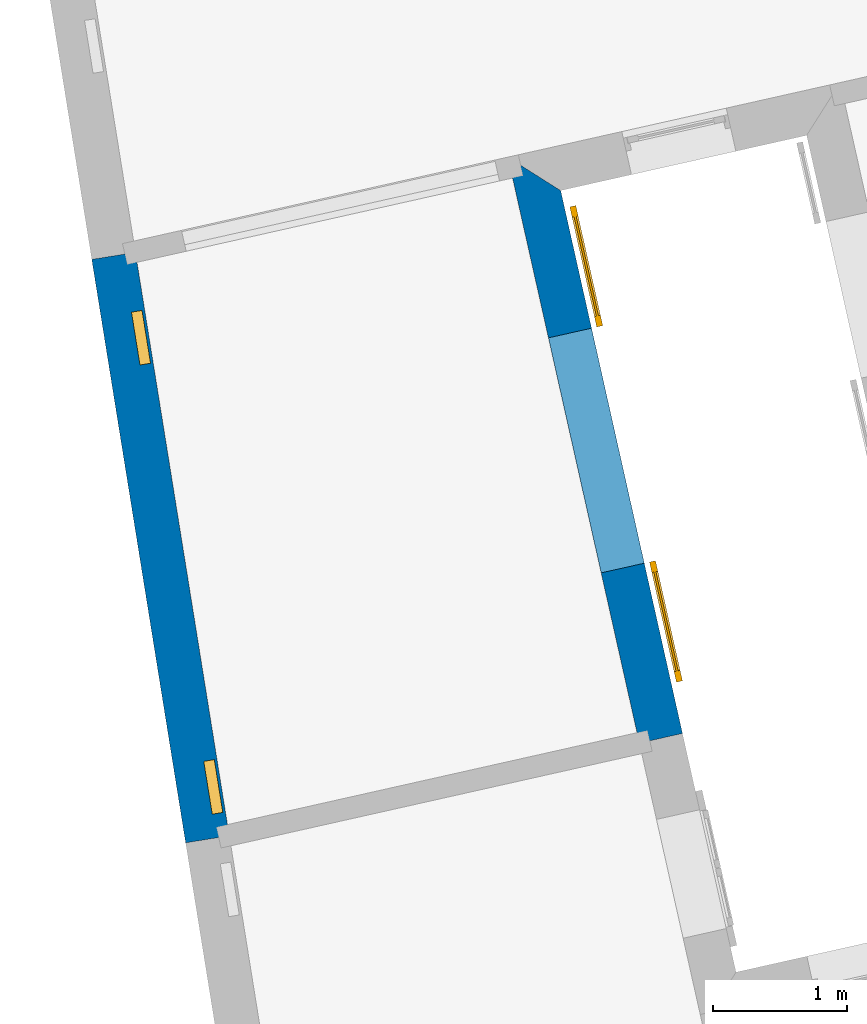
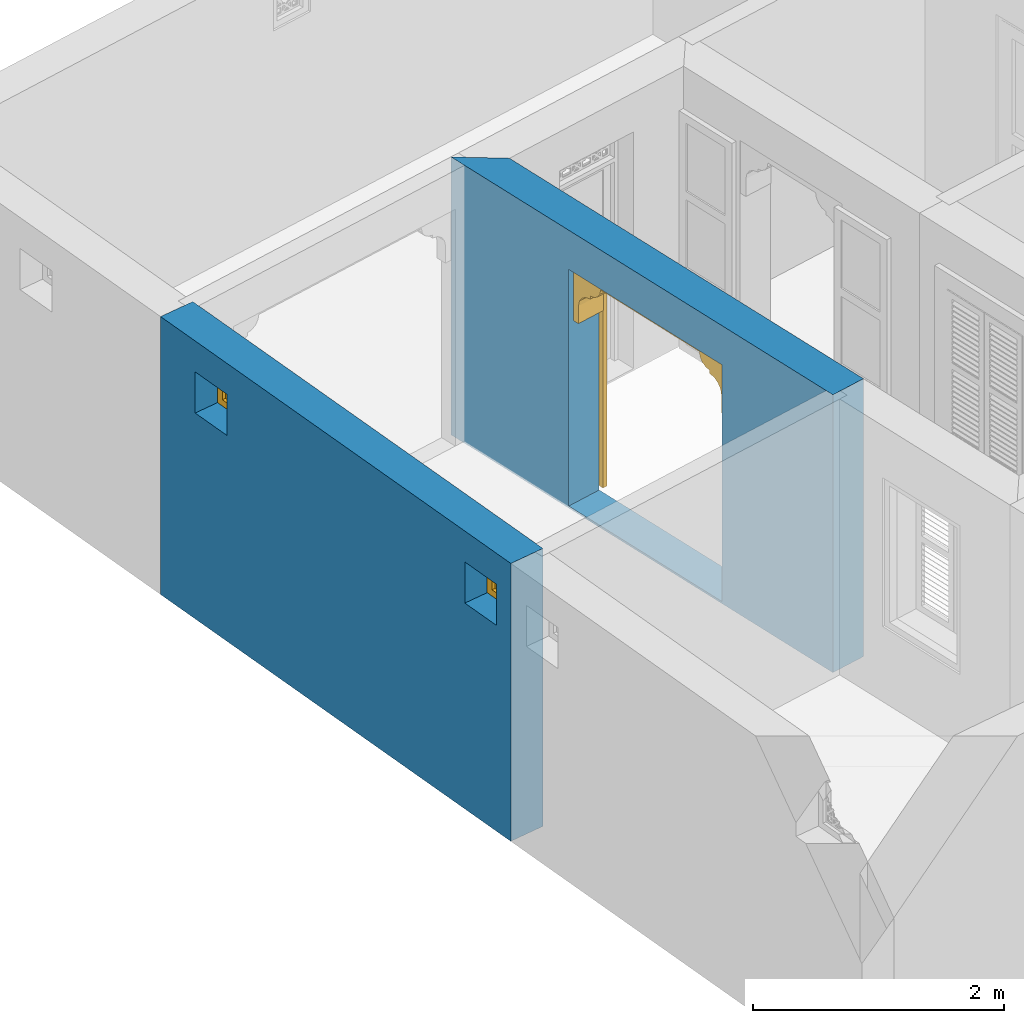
# One storey, part 6 of 13: 2 walls, 2 windows, 1 door, 3 openings.
"""IFC4 building model written with IfcOpenShell, lengths in metres."""

from ifc_helpers import new_model, si_unit, frame, origin, origin_with_axes, place, context, subcontext, project, spatial, polyline, outline, extrude, faceted_brep, source, transform, mapped, material, layer, layer_set, layer_usage, type_object, type_shapes, element, fill, save


model = new_model("IFC4")

# Units and contexts
model_context = context("Model", 3, world=origin_with_axes())
body_context = subcontext(model_context, "Body", "Model", "MODEL_VIEW")
ifc_project = project(units=[si_unit("PLANEANGLEUNIT", "RADIAN"), si_unit("MASSUNIT", "GRAM", prefix="KILO"), si_unit("FORCEUNIT", "NEWTON", prefix="KILO"), si_unit("LENGTHUNIT", "METRE"), si_unit("AREAUNIT", "SQUARE_METRE"), si_unit("VOLUMEUNIT", "CUBIC_METRE")], contexts=[model_context, model_context])

# Site, building, storey
site_placement = place(None, origin_with_axes())
site = spatial("IfcSite", under=ifc_project, at=site_placement, Name="Site plot-10", CompositionType="ELEMENT")
building_placement = place(None, origin_with_axes())
building = spatial("IfcBuilding", under=site, at=building_placement, Name="Building plot-10", CompositionType="ELEMENT")
storey_placement = place(None, origin_with_axes())
storey = spatial("IfcBuildingStorey", under=building, at=storey_placement, Name="plot-10 0", CompositionType="ELEMENT", Elevation=0.0)

# Wall, opening, door
ifc_material = material(Name="Masonry")
ifc_layer = layer(ifc_material, 0.33, ventilated=False)
ifc_layer_set = layer_set([ifc_layer], Name="exterior_0.08_0.25")
ifc_layer_usage = layer_usage(ifc_layer_set, "AXIS2", "POSITIVE", -0.25)
wall_type = type_object("IfcWallType", Name="exterior_0.08_0.25", PredefinedType="SOLIDWALL", material=ifc_layer_set)
wall_1_placement = place(storey_placement, frame((-20.5808779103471, 12.8770561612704, 0.0), z_axis=(0.0, 0.0, 1.0), x_axis=(-0.218925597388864, 0.975741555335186, 0.0)))
wall_1 = element("IfcWall", 1, at=wall_1_placement, inside=storey, type_object=wall_type, material=ifc_layer_usage, Name="exterior", context=body_context, shape_type="SweptSolid", body=[
    extrude(outline(polyline([(-1.06091551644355e-15, 0.0799999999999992), (4.95580054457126e-15, -0.249999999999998), (4.15809049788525, -0.249999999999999), (4.48809049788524, 0.0799999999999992), (-1.06091551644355e-15, 0.0799999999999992)])), origin_with_axes(), (0.0, 0.0, 1.0), 2.7),
])
opening_1_placement = place(wall_1_placement, frame((1.30404524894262, 0.0, 0.02)))
opening_1 = element("IfcOpeningElement", 2, at=opening_1_placement, cuts=wall_1, Name="My Opening", ObjectType="Opening", context=body_context, shape_type="SweptSolid", body=[
    extrude(outline(polyline([(0.0, -0.270000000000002), (1.8, -0.270000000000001), (1.8, 1.1), (1.77635683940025e-15, 1.1), (0.0, -0.270000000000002)])), origin_with_axes(), (0.0, 0.0, 1.0), 2.3),
])
door_type = type_object("IfcDoorType", Name="arch-1800x2300", OperationType="SINGLE_SWING_LEFT", PredefinedType="NOTDEFINED")
shared_shape_1 = source(origin(), body_context, "Body", "Brep", [
    faceted_brep([(-0.08, -0.02, 0.08), (-0.08, -0.02, 0.0), (-0.84, -0.02, 0.0), (-0.84, -0.02, 0.08), (-0.92, -0.02, 0.0), (-0.92, -0.02, 0.08), (-0.84, -0.035, 0.08), (-0.08, -0.035, 0.08), (0.0, -0.02, 0.08), (0.0, -0.02, 0.0), (-0.08, -0.066, 0.0), (-0.84, -0.066, 0.0), (-0.92, -0.066, 0.0), (-0.92, -0.066, 0.08), (-0.84, -0.02, 0.743333), (-0.92, -0.02, 0.743333), (-0.84, -0.035, 0.743333), (-0.08, -0.035, 0.743333), (-0.08, -0.02, 0.743333), (0.0, -0.02, 0.743333), (0.0, -0.066, 0.08), (0.0, -0.066, 0.0), (-0.84, -0.066, 0.08), (-0.08, -0.066, 0.08), (-0.92, -0.066, 0.743333), (-0.84, -0.02, 0.823333), (-0.92, -0.02, 0.823333), (0.0, -0.066, 0.743333), (0.0, -0.02, 0.823333), (-0.08, -0.02, 0.823333), (-0.08, -0.051, 0.08), (-0.84, -0.051, 0.08), (-0.84, -0.066, 0.743333), (-0.92, -0.066, 0.823333), (-0.84, -0.02, 1.486667), (-0.92, -0.02, 1.486667), (0.0, -0.066, 0.823333), (-0.08, -0.066, 0.743333), (0.0, -0.02, 1.486667), (-0.08, -0.02, 1.486667), (-0.08, -0.051, 0.743333), (-0.84, -0.051, 0.743333), (-0.84, -0.066, 0.823333), (-0.92, -0.066, 1.486667), (-0.84, -0.035, 0.823333), (-0.08, -0.035, 0.823333), (-0.84, -0.035, 1.486667), (-0.84, -0.02, 1.566667), (-0.92, -0.02, 1.566667), (0.0, -0.066, 1.486667), (-0.08, -0.066, 0.823333), (-0.08, -0.035, 1.486667), (0.0, -0.02, 1.566667), (-0.08, -0.02, 1.566667), (-0.84, -0.066, 1.486667), (-0.92, -0.066, 1.566667), (-0.84, -0.02, 2.23), (-0.92, -0.02, 2.23), (0.0, -0.066, 1.566667), (-0.08, -0.066, 1.486667), (0.0, -0.02, 2.23), (-0.08, -0.02, 2.23), (-0.08, -0.051, 0.823333), (-0.84, -0.051, 0.823333), (-0.84, -0.051, 1.486667), (-0.84, -0.066, 1.566667), (-0.92, -0.066, 2.23), (-0.84, -0.035, 1.566667), (-0.08, -0.035, 1.566667), (-0.84, -0.035, 2.23), (-0.84, -0.02, 2.31), (-0.92, -0.02, 2.31), (0.0, -0.066, 2.23), (-0.08, -0.066, 1.566667), (-0.08, -0.051, 1.486667), (-0.08, -0.035, 2.23), (0.0, -0.02, 2.31), (-0.08, -0.02, 2.31), (-0.84, -0.066, 2.23), (-0.92, -0.066, 2.31), (-0.84, -0.066, 2.31), (0.0, -0.066, 2.31), (-0.08, -0.066, 2.23), (-0.08, -0.066, 2.31), (-0.08, -0.051, 1.566667), (-0.84, -0.051, 1.566667), (-0.84, -0.051, 2.23), (-0.08, -0.051, 2.23), (2.64, -0.02, 0.08), (2.64, -0.02, 0.0), (1.88, -0.02, 0.0), (1.88, -0.02, 0.08), (2.72, -0.02, 0.08), (2.72, -0.02, 0.0), (1.88, -0.035, 0.08), (2.64, -0.035, 0.08), (1.8, -0.02, 0.0), (1.8, -0.02, 0.08), (2.64, -0.066, 0.0), (1.88, -0.066, 0.0), (2.72, -0.066, 0.08), (2.72, -0.066, 0.0), (2.72, -0.02, 0.743333), (2.64, -0.02, 0.743333), (2.64, -0.035, 0.743333), (1.88, -0.035, 0.743333), (1.88, -0.02, 0.743333), (1.8, -0.02, 0.743333), (1.8, -0.066, 0.0), (1.8, -0.066, 0.08), (1.88, -0.066, 0.08), (2.64, -0.066, 0.08), (2.72, -0.066, 0.743333), (2.72, -0.02, 0.823333), (2.64, -0.02, 0.823333), (1.8, -0.066, 0.743333), (1.88, -0.02, 0.823333), (1.8, -0.02, 0.823333), (2.64, -0.051, 0.08), (1.88, -0.051, 0.08), (2.64, -0.066, 0.743333), (2.72, -0.066, 0.823333), (2.72, -0.02, 1.486667), (2.64, -0.02, 1.486667), (1.8, -0.066, 0.823333), (1.88, -0.066, 0.743333), (1.88, -0.02, 1.486667), (1.8, -0.02, 1.486667), (1.88, -0.051, 0.743333), (2.64, -0.051, 0.743333), (2.64, -0.066, 0.823333), (2.72, -0.066, 1.486667), (1.88, -0.035, 0.823333), (2.64, -0.035, 0.823333), (2.64, -0.035, 1.486667), (2.72, -0.02, 1.566667), (2.64, -0.02, 1.566667), (1.8, -0.066, 1.486667), (1.88, -0.066, 0.823333), (1.88, -0.035, 1.486667), (1.88, -0.02, 1.566667), (1.8, -0.02, 1.566667), (2.64, -0.066, 1.486667), (2.72, -0.066, 1.566667), (2.72, -0.02, 2.23), (2.64, -0.02, 2.23), (1.8, -0.066, 1.566667), (1.88, -0.066, 1.486667), (1.88, -0.02, 2.23), (1.8, -0.02, 2.23), (2.64, -0.051, 0.823333), (1.88, -0.051, 0.823333), (2.64, -0.051, 1.486667), (2.64, -0.066, 1.566667), (2.72, -0.066, 2.23), (1.88, -0.035, 1.566667), (2.64, -0.035, 1.566667), (2.64, -0.035, 2.23), (2.72, -0.02, 2.31), (2.64, -0.02, 2.31), (1.8, -0.066, 2.23), (1.88, -0.066, 1.566667), (1.88, -0.051, 1.486667), (1.88, -0.035, 2.23), (1.88, -0.02, 2.31), (1.8, -0.02, 2.31), (2.64, -0.066, 2.23), (2.72, -0.066, 2.31), (2.64, -0.066, 2.31), (1.8, -0.066, 2.31), (1.88, -0.066, 2.23), (1.88, -0.066, 2.31), (2.64, -0.051, 1.566667), (1.88, -0.051, 1.566667), (2.64, -0.051, 2.23), (1.88, -0.051, 2.23), (1.8, 0.03, 1.78), (1.8, 0.03, 1.95), (1.74, 0.03, 1.95), (1.74, 0.03, 1.78), (1.74, 0.3, 1.95), (1.74, 0.3, 1.78), (1.8, 0.03, 2.12), (1.729, 0.03, 2.004), (1.8, 0.3, 1.78), (1.8, 0.3, 1.95), (1.729, 0.3, 2.004), (1.699, 0.03, 2.049), (1.8, 0.3, 2.12), (1.699, 0.3, 2.049), (1.654, 0.03, 2.079), (1.8, 0.3, 2.29), (1.8, 0.03, 2.29), (1.654, 0.3, 2.079), (1.6, 0.03, 2.09), (1.6, 0.03, 2.12), (1.554, 0.03, 2.129), (1.48, 0.3, 2.29), (1.48, 0.03, 2.29), (1.6, 0.3, 2.12), (1.554, 0.3, 2.129), (1.6, 0.3, 2.09), (1.515, 0.03, 2.155), (1.489, 0.3, 2.194), (1.48, 0.3, 2.24), (1.48, 0.03, 2.24), (1.489, 0.03, 2.194), (1.515, 0.3, 2.155), (0.06, 0.03, 1.78), (0.06, 0.03, 1.95), (0.0, 0.03, 1.95), (0.0, 0.03, 1.78), (0.06, 0.3, 1.78), (0.06, 0.3, 1.95), (0.071, 0.03, 2.004), (0.0, 0.03, 2.12), (0.0, 0.3, 1.95), (0.0, 0.3, 1.78), (0.071, 0.3, 2.004), (0.101, 0.03, 2.049), (0.0, 0.3, 2.12), (0.101, 0.3, 2.049), (0.146, 0.03, 2.079), (0.0, 0.03, 2.29), (0.0, 0.3, 2.29), (0.146, 0.3, 2.079), (0.2, 0.03, 2.12), (0.2, 0.03, 2.09), (0.246, 0.03, 2.129), (0.32, 0.03, 2.29), (0.32, 0.3, 2.29), (0.246, 0.3, 2.129), (0.2, 0.3, 2.12), (0.2, 0.3, 2.09), (0.285, 0.03, 2.155), (0.32, 0.3, 2.24), (0.311, 0.3, 2.194), (0.311, 0.03, 2.194), (0.32, 0.03, 2.24), (0.285, 0.3, 2.155)], [[[0, 1, 2, 3]], [[4, 5, 3, 2]], [[0, 3, 6, 7]], [[1, 0, 8, 9]], [[2, 1, 10, 11]], [[5, 4, 12, 13]], [[14, 3, 5, 15]], [[4, 2, 11, 12]], [[3, 14, 16, 6]], [[6, 16, 17, 7]], [[18, 0, 7, 17]], [[0, 18, 19, 8]], [[9, 8, 20, 21]], [[1, 9, 21, 10]], [[22, 11, 10, 23]], [[13, 12, 11, 22]], [[15, 5, 13, 24]], [[25, 14, 15, 26]], [[14, 18, 17, 16]], [[8, 19, 27, 20]], [[28, 19, 18, 29]], [[23, 10, 21, 20]], [[22, 23, 30, 31]], [[22, 32, 24, 13]], [[26, 15, 24, 33]], [[29, 18, 14, 25]], [[34, 25, 26, 35]], [[19, 28, 36, 27]], [[20, 27, 37, 23]], [[38, 28, 29, 39]], [[23, 37, 40, 30]], [[41, 31, 30, 40]], [[32, 22, 31, 41]], [[32, 42, 33, 24]], [[35, 26, 33, 43]], [[29, 25, 44, 45]], [[25, 34, 46, 44]], [[47, 34, 35, 48]], [[28, 38, 49, 36]], [[27, 36, 50, 37]], [[39, 29, 45, 51]], [[52, 38, 39, 53]], [[37, 32, 41, 40]], [[37, 50, 42, 32]], [[42, 54, 43, 33]], [[48, 35, 43, 55]], [[44, 46, 51, 45]], [[34, 39, 51, 46]], [[34, 47, 53, 39]], [[56, 47, 48, 57]], [[38, 52, 58, 49]], [[36, 49, 59, 50]], [[60, 52, 53, 61]], [[42, 50, 62, 63]], [[54, 42, 63, 64]], [[54, 65, 55, 43]], [[57, 48, 55, 66]], [[53, 47, 67, 68]], [[47, 56, 69, 67]], [[70, 56, 57, 71]], [[52, 60, 72, 58]], [[49, 58, 73, 59]], [[50, 59, 74, 62]], [[61, 53, 68, 75]], [[76, 60, 61, 77]], [[64, 63, 62, 74]], [[59, 54, 64, 74]], [[65, 54, 59, 73]], [[65, 78, 66, 55]], [[71, 57, 66, 79]], [[67, 69, 75, 68]], [[56, 61, 75, 69]], [[77, 61, 56, 70]], [[70, 71, 79, 80]], [[60, 76, 81, 72]], [[58, 72, 82, 73]], [[76, 77, 83, 81]], [[65, 73, 84, 85]], [[78, 65, 85, 86]], [[78, 80, 79, 66]], [[77, 70, 80, 83]], [[72, 81, 83, 82]], [[73, 82, 87, 84]], [[86, 85, 84, 87]], [[82, 78, 86, 87]], [[82, 83, 80, 78]], [[88, 89, 90, 91]], [[89, 88, 92, 93]], [[94, 95, 88, 91]], [[96, 97, 91, 90]], [[98, 99, 90, 89]], [[100, 101, 93, 92]], [[102, 92, 88, 103]], [[101, 98, 89, 93]], [[95, 104, 103, 88]], [[94, 105, 104, 95]], [[105, 94, 91, 106]], [[97, 107, 106, 91]], [[108, 109, 97, 96]], [[99, 108, 96, 90]], [[110, 99, 98, 111]], [[111, 98, 101, 100]], [[112, 100, 92, 102]], [[113, 102, 103, 114]], [[104, 105, 106, 103]], [[109, 115, 107, 97]], [[116, 106, 107, 117]], [[109, 108, 99, 110]], [[118, 119, 110, 111]], [[100, 112, 120, 111]], [[121, 112, 102, 113]], [[114, 103, 106, 116]], [[122, 113, 114, 123]], [[115, 124, 117, 107]], [[110, 125, 115, 109]], [[126, 116, 117, 127]], [[119, 128, 125, 110]], [[128, 119, 118, 129]], [[129, 118, 111, 120]], [[112, 121, 130, 120]], [[131, 121, 113, 122]], [[132, 133, 114, 116]], [[133, 134, 123, 114]], [[135, 122, 123, 136]], [[124, 137, 127, 117]], [[125, 138, 124, 115]], [[139, 132, 116, 126]], [[140, 126, 127, 141]], [[128, 129, 120, 125]], [[120, 130, 138, 125]], [[121, 131, 142, 130]], [[143, 131, 122, 135]], [[132, 139, 134, 133]], [[134, 139, 126, 123]], [[126, 140, 136, 123]], [[144, 135, 136, 145]], [[137, 146, 141, 127]], [[138, 147, 137, 124]], [[148, 140, 141, 149]], [[150, 151, 138, 130]], [[152, 150, 130, 142]], [[131, 143, 153, 142]], [[154, 143, 135, 144]], [[155, 156, 136, 140]], [[156, 157, 145, 136]], [[158, 144, 145, 159]], [[146, 160, 149, 141]], [[147, 161, 146, 137]], [[151, 162, 147, 138]], [[163, 155, 140, 148]], [[164, 148, 149, 165]], [[162, 151, 150, 152]], [[162, 152, 142, 147]], [[161, 147, 142, 153]], [[143, 154, 166, 153]], [[167, 154, 144, 158]], [[155, 163, 157, 156]], [[157, 163, 148, 145]], [[159, 145, 148, 164]], [[168, 167, 158, 159]], [[160, 169, 165, 149]], [[161, 170, 160, 146]], [[169, 171, 164, 165]], [[172, 173, 161, 153]], [[174, 172, 153, 166]], [[154, 167, 168, 166]], [[171, 168, 159, 164]], [[170, 171, 169, 160]], [[173, 175, 170, 161]], [[175, 173, 172, 174]], [[175, 174, 166, 170]], [[166, 168, 171, 170]], [[176, 177, 178, 179]], [[180, 181, 179, 178]], [[177, 182, 183, 178]], [[177, 176, 184, 185]], [[181, 184, 176, 179]], [[181, 180, 185, 184]], [[186, 180, 178, 183]], [[182, 187, 183]], [[182, 177, 185, 188]], [[180, 186, 188, 185]], [[189, 186, 183, 187]], [[182, 190, 187]], [[188, 191, 192, 182]], [[188, 186, 189]], [[193, 189, 187, 190]], [[194, 190, 182, 195]], [[182, 192, 196, 195]], [[192, 191, 197, 198]], [[199, 200, 191, 188]], [[188, 189, 193]], [[201, 193, 190, 194]], [[199, 201, 194, 195]], [[200, 199, 195, 196]], [[192, 202, 196]], [[191, 203, 204, 197]], [[192, 198, 205, 206]], [[207, 191, 200]], [[199, 188, 193, 201]], [[207, 200, 196, 202]], [[192, 206, 202]], [[204, 203, 206, 205]], [[203, 191, 207]], [[203, 207, 202, 206]], [[208, 209, 210, 211]], [[209, 208, 212, 213]], [[209, 214, 215, 210]], [[211, 210, 216, 217]], [[208, 211, 217, 212]], [[217, 216, 213, 212]], [[214, 209, 213, 218]], [[214, 219, 215]], [[220, 216, 210, 215]], [[216, 220, 218, 213]], [[219, 214, 218, 221]], [[219, 222, 215]], [[215, 223, 224, 220]], [[221, 218, 220]], [[222, 219, 221, 225]], [[226, 215, 222, 227]], [[226, 228, 223, 215]], [[229, 230, 224, 223]], [[220, 224, 231, 232]], [[225, 221, 220]], [[227, 222, 225, 233]], [[226, 227, 233, 232]], [[228, 226, 232, 231]], [[228, 234, 223]], [[230, 235, 236, 224]], [[237, 238, 229, 223]], [[231, 224, 239]], [[233, 225, 220, 232]], [[234, 228, 231, 239]], [[234, 237, 223]], [[238, 237, 236, 235]], [[239, 224, 236]], [[237, 234, 239, 236]], [[238, 235, 204, 205]], [[235, 230, 197, 204]], [[229, 238, 205, 198]], [[230, 229, 198, 197]]]),
])
type_shapes(door_type, [shared_shape_1])
door_placement = place(storey_placement, frame((-20.6029165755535, 14.2085772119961, 0.02), z_axis=(0.0, 0.0, 1.0), x_axis=(-0.394066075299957, 1.75633479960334, 0.0)))
door = element("IfcDoor", 3, at=door_placement, inside=storey, type_object=door_type, Name="kitchen sahn door", OverallHeight=2.3, OverallWidth=1.8, context=body_context, shape_type="MappedRepresentation", body=[
    mapped(shared_shape_1, transform((0.0, 0.0, 0.0), scale=1.0)),
])
fill(opening_1, door)

# Wall, openings, windows
wall_2_placement = place(storey_placement, frame((-24.5040673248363, 16.5144987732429, 0.0), z_axis=(0.0, 0.0, 1.0), x_axis=(0.158841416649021, -0.98730410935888, 0.0)))
wall_2 = element("IfcWall", 4, at=wall_2_placement, inside=storey, type_object=wall_type, material=ifc_layer_usage, Name="exterior", context=body_context, shape_type="SweptSolid", body=[
    extrude(outline(polyline([(-1.22078763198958e-15, 0.08), (4.83905705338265e-15, -0.249999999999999), (4.41635748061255, -0.249999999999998), (4.41635748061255, 0.0800000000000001), (-1.22078763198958e-15, 0.08)])), origin_with_axes(), (0.0, 0.0, 1.0), 2.7),
])
opening_2_placement = place(wall_2_placement, frame((0.436357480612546, 0.0, 2.0)))
opening_2 = element("IfcOpeningElement", 5, at=opening_2_placement, cuts=wall_2, Name="My Opening", ObjectType="Opening", context=body_context, shape_type="SweptSolid", body=[
    extrude(outline(polyline([(0.0, -0.27), (0.400000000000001, -0.270000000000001), (0.400000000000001, 1.1), (4.9960036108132e-16, 1.1), (0.0, -0.27)])), origin_with_axes(), (0.0, 0.0, 1.0), 0.4),
])
opening_3_placement = place(wall_2_placement, frame((3.83635748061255, 0.0, 2.0)))
opening_3 = element("IfcOpeningElement", 6, at=opening_3_placement, cuts=wall_2, Name="My Opening", ObjectType="Opening", context=body_context, shape_type="SweptSolid", body=[
    extrude(outline(polyline([(0.0, -0.269999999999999), (0.400000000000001, -0.27), (0.400000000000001, 1.1), (4.44089209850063e-16, 1.1), (0.0, -0.269999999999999)])), origin_with_axes(), (0.0, 0.0, 1.0), 0.4),
])
window_type = type_object("IfcWindowType", Name="barred_window", PartitioningType="DOUBLE_PANEL_HORIZONTAL", PredefinedType="NOTDEFINED")
shared_shape_2 = source(origin(), body_context, "Body", "Brep", [
    faceted_brep([(0.4, 0.25, 0.4), (0.0, 0.25, 0.4), (0.06, 0.25, 0.34), (0.34, 0.25, 0.34), (0.06, 0.33, 0.34), (0.34, 0.33, 0.34), (0.34, 0.25, 0.06), (0.4, 0.25, 0.0), (0.4, 0.33, 0.4), (0.0, 0.33, 0.4), (0.0, 0.25, 0.0), (0.06, 0.25, 0.06), (0.06, 0.33, 0.06), (0.34, 0.33, 0.06), (0.4, 0.33, 0.0), (0.0, 0.33, 0.0), (0.136152, 0.28, 0.08), (0.08, 0.28, 0.08), (0.06, 0.28, 0.06), (0.136152, 0.28, 0.06), (0.136152, 0.29, 0.08), (0.08, 0.29, 0.08), (0.06, 0.28, 0.136152), (0.08, 0.28, 0.136152), (0.06, 0.29, 0.06), (0.136152, 0.29, 0.06), (0.170294, 0.28, 0.08), (0.170294, 0.28, 0.06), (0.136152, 0.28, 0.136152), (0.136152, 0.29, 0.136152), (0.08, 0.29, 0.136152), (0.06, 0.29, 0.136152), (0.08, 0.28, 0.170294), (0.06, 0.28, 0.170294), (0.170294, 0.29, 0.06), (0.229706, 0.28, 0.08), (0.229706, 0.28, 0.06), (0.156152, 0.28, 0.094142), (0.156152, 0.28, 0.136152), (0.185858, 0.28, 0.123848), (0.185858, 0.29, 0.123848), (0.156152, 0.29, 0.094142), (0.156152, 0.29, 0.136152), (0.229706, 0.29, 0.08), (0.170294, 0.29, 0.08), (0.2, 0.28, 0.109706), (0.2, 0.29, 0.109706), (0.06, 0.29, 0.170294), (0.094142, 0.28, 0.156152), (0.08, 0.28, 0.229706), (0.06, 0.28, 0.229706), (0.229706, 0.29, 0.06), (0.263848, 0.28, 0.08), (0.263848, 0.28, 0.06), (0.156152, 0.28, 0.156152), (0.136152, 0.28, 0.156152), (0.173553, 0.28, 0.136152), (0.173553, 0.29, 0.136152), (0.156152, 0.29, 0.156152), (0.136152, 0.29, 0.156152), (0.094142, 0.29, 0.156152), (0.08, 0.29, 0.170294), (0.06, 0.29, 0.229706), (0.123848, 0.28, 0.185858), (0.109706, 0.28, 0.2), (0.08, 0.29, 0.229706), (0.08, 0.28, 0.263848), (0.06, 0.28, 0.263848), (0.263848, 0.29, 0.06), (0.2, 0.28, 0.13799), (0.214142, 0.28, 0.123848), (0.34, 0.28, 0.06), (0.32, 0.28, 0.08), (0.181838, 0.28, 0.156152), (0.136152, 0.28, 0.173553), (0.156152, 0.28, 0.181838), (0.181838, 0.29, 0.156152), (0.2, 0.29, 0.13799), (0.214142, 0.29, 0.123848), (0.136152, 0.29, 0.173553), (0.156152, 0.29, 0.181838), (0.243848, 0.28, 0.094142), (0.243848, 0.29, 0.094142), (0.263848, 0.28, 0.136152), (0.263848, 0.29, 0.08), (0.263848, 0.29, 0.136152), (0.32, 0.29, 0.08), (0.243848, 0.28, 0.136152), (0.243848, 0.29, 0.136152), (0.06, 0.29, 0.263848), (0.123848, 0.29, 0.185858), (0.13799, 0.28, 0.2), (0.123848, 0.28, 0.214142), (0.109706, 0.29, 0.2), (0.094142, 0.28, 0.243848), (0.08, 0.28, 0.32), (0.06, 0.28, 0.34), (0.34, 0.29, 0.06), (0.218162, 0.28, 0.156152), (0.226447, 0.28, 0.136152), (0.34, 0.28, 0.229706), (0.32, 0.28, 0.229706), (0.32, 0.28, 0.170294), (0.32, 0.28, 0.136152), (0.218162, 0.29, 0.156152), (0.226447, 0.29, 0.136152), (0.13799, 0.29, 0.2), (0.32, 0.29, 0.136152), (0.08, 0.29, 0.263848), (0.06, 0.29, 0.34), (0.136152, 0.28, 0.226447), (0.156152, 0.28, 0.218162), (0.094142, 0.29, 0.243848), (0.123848, 0.29, 0.214142), (0.136152, 0.28, 0.243848), (0.136152, 0.28, 0.263848), (0.08, 0.29, 0.32), (0.136152, 0.28, 0.34), (0.136152, 0.28, 0.32), (0.34, 0.29, 0.229706), (0.243848, 0.28, 0.156152), (0.263848, 0.28, 0.156152), (0.34, 0.28, 0.263848), (0.32, 0.28, 0.263848), (0.32, 0.29, 0.229706), (0.32, 0.29, 0.170294), (0.290294, 0.28, 0.2), (0.276152, 0.28, 0.185858), (0.305858, 0.28, 0.156152), (0.243848, 0.29, 0.156152), (0.263848, 0.29, 0.156152), (0.305858, 0.29, 0.156152), (0.276152, 0.29, 0.185858), (0.290294, 0.29, 0.2), (0.136152, 0.29, 0.34), (0.136152, 0.29, 0.226447), (0.156152, 0.29, 0.218162), (0.156152, 0.28, 0.243848), (0.136152, 0.29, 0.243848), (0.156152, 0.28, 0.263848), (0.136152, 0.29, 0.263848), (0.136152, 0.29, 0.32), (0.170294, 0.28, 0.32), (0.170294, 0.28, 0.34), (0.34, 0.29, 0.263848), (0.243848, 0.28, 0.181838), (0.263848, 0.28, 0.173553), (0.34, 0.28, 0.34), (0.32, 0.28, 0.32), (0.305858, 0.28, 0.243848), (0.276152, 0.28, 0.214142), (0.26201, 0.28, 0.2), (0.243848, 0.29, 0.181838), (0.263848, 0.29, 0.173553), (0.26201, 0.29, 0.2), (0.276152, 0.29, 0.214142), (0.32, 0.29, 0.263848), (0.170294, 0.29, 0.34), (0.156152, 0.29, 0.243848), (0.173553, 0.28, 0.263848), (0.181838, 0.28, 0.243848), (0.156152, 0.28, 0.305858), (0.229706, 0.28, 0.32), (0.229706, 0.28, 0.34), (0.34, 0.29, 0.34), (0.263848, 0.28, 0.34), (0.263848, 0.28, 0.32), (0.32, 0.29, 0.32), (0.263848, 0.28, 0.263848), (0.263848, 0.28, 0.243848), (0.305858, 0.29, 0.243848), (0.263848, 0.28, 0.226447), (0.243848, 0.28, 0.218162), (0.243848, 0.29, 0.218162), (0.263848, 0.29, 0.226447), (0.156152, 0.29, 0.263848), (0.170294, 0.29, 0.32), (0.229706, 0.29, 0.34), (0.181838, 0.29, 0.243848), (0.173553, 0.29, 0.263848), (0.185858, 0.28, 0.276152), (0.2, 0.28, 0.26201), (0.156152, 0.29, 0.305858), (0.229706, 0.29, 0.32), (0.263848, 0.29, 0.34), (0.263848, 0.29, 0.32), (0.263848, 0.29, 0.263848), (0.243848, 0.28, 0.243848), (0.243848, 0.28, 0.263848), (0.263848, 0.29, 0.243848), (0.243848, 0.29, 0.243848), (0.2, 0.29, 0.26201), (0.185858, 0.29, 0.276152), (0.214142, 0.28, 0.276152), (0.218162, 0.28, 0.243848), (0.226447, 0.28, 0.263848), (0.243848, 0.28, 0.305858), (0.2, 0.28, 0.290294), (0.2, 0.29, 0.290294), (0.243848, 0.29, 0.263848), (0.218162, 0.29, 0.243848), (0.214142, 0.29, 0.276152), (0.226447, 0.29, 0.263848), (0.243848, 0.29, 0.305858)], [[[0, 1, 2, 3]], [[3, 2, 4, 5]], [[3, 6, 7, 0]], [[1, 0, 8, 9]], [[1, 10, 11, 2]], [[2, 11, 12, 4]], [[9, 8, 5, 4]], [[6, 3, 5, 13]], [[6, 11, 10, 7]], [[0, 7, 14, 8]], [[10, 1, 9, 15]], [[11, 6, 13, 12]], [[4, 12, 15, 9]], [[8, 14, 13, 5]], [[7, 10, 15, 14]], [[12, 13, 14, 15]], [[16, 17, 18, 19]], [[17, 16, 20, 21]], [[22, 18, 17, 23]], [[19, 18, 24, 25]], [[26, 16, 19, 27]], [[16, 28, 29, 20]], [[21, 20, 25, 24]], [[23, 17, 21, 30]], [[18, 22, 31, 24]], [[23, 32, 33, 22]], [[27, 19, 25, 34]], [[35, 26, 27, 36]], [[28, 16, 37, 38]], [[37, 39, 40, 41]], [[38, 37, 41, 42]], [[20, 29, 42, 41]], [[26, 35, 43, 44]], [[45, 26, 44, 46]], [[20, 44, 34, 25]], [[28, 23, 30, 29]], [[24, 31, 30, 21]], [[22, 33, 47, 31]], [[48, 32, 23]], [[32, 49, 50, 33]], [[36, 27, 34, 51]], [[39, 37, 26, 45]], [[52, 35, 36, 53]], [[38, 54, 55, 28]], [[39, 56, 57, 40]], [[41, 40, 46, 44]], [[56, 38, 42, 57]], [[58, 42, 29, 59]], [[35, 45, 46, 43]], [[44, 43, 51, 34]], [[23, 28, 55, 48]], [[29, 30, 60, 59]], [[61, 30, 31, 47]], [[33, 50, 62, 47]], [[48, 63, 64, 32]], [[49, 32, 61, 65]], [[49, 66, 67, 50]], [[53, 36, 51, 68]], [[69, 39, 45, 70]], [[53, 71, 72, 52]], [[73, 54, 38, 56]], [[74, 55, 54, 75]], [[56, 39, 69, 73]], [[40, 57, 76, 77]], [[40, 77, 78, 46]], [[58, 76, 57, 42]], [[59, 79, 80, 58]], [[45, 35, 81, 70]], [[43, 46, 78, 82]], [[83, 52, 84, 85]], [[82, 84, 43]], [[52, 72, 86, 84]], [[43, 84, 68, 51]], [[44, 20, 41]], [[70, 81, 82, 78]], [[81, 87, 88, 82]], [[48, 55, 59, 60]], [[61, 60, 30]], [[65, 61, 47, 62]], [[50, 67, 89, 62]], [[63, 48, 60, 90]], [[63, 91, 92, 64]], [[32, 64, 93, 61]], [[64, 49, 65, 93]], [[94, 66, 49]], [[66, 95, 96, 67]], [[71, 53, 68, 97]], [[98, 69, 70, 99]], [[81, 52, 83, 87]], [[72, 71, 100]], [[100, 101, 102]], [[103, 72, 100]], [[100, 102, 103]], [[54, 73, 76, 58]], [[55, 74, 79, 59]], [[75, 54, 58, 80]], [[63, 74, 75, 91]], [[73, 69, 77, 76]], [[77, 104, 105, 78]], [[79, 90, 106, 80]], [[84, 82, 88, 85]], [[103, 83, 85, 107]], [[72, 103, 107, 86]], [[97, 68, 84, 86]], [[99, 70, 78, 105]], [[87, 99, 105, 88]], [[90, 60, 61, 93]], [[108, 65, 62, 89]], [[67, 96, 109, 89]], [[74, 63, 90, 79]], [[110, 92, 91, 111]], [[49, 64, 92, 94]], [[93, 65, 112, 113]], [[94, 114, 115, 66]], [[95, 66, 108, 116]], [[117, 96, 95, 118]], [[100, 71, 97, 119]], [[69, 98, 104, 77]], [[99, 87, 120, 98]], [[87, 83, 121, 120]], [[101, 100, 122, 123]], [[102, 101, 124, 125]], [[121, 83, 103]], [[103, 102, 126]], [[126, 127, 128]], [[128, 121, 103]], [[103, 126, 128]], [[91, 75, 80, 106]], [[88, 105, 104, 129]], [[106, 90, 93, 113]], [[85, 88, 129, 130]], [[107, 85, 130]], [[131, 132, 133]], [[107, 130, 131]], [[133, 125, 107]], [[107, 131, 133]], [[124, 119, 97]], [[97, 86, 107]], [[107, 125, 124]], [[97, 107, 124]], [[108, 112, 65]], [[116, 108, 89, 109]], [[96, 117, 134, 109]], [[92, 110, 135, 113]], [[111, 91, 106, 136]], [[114, 110, 111, 137]], [[94, 92, 113, 112]], [[114, 94, 112, 138]], [[114, 137, 139, 115]], [[66, 115, 140, 108]], [[118, 95, 116, 141]], [[118, 142, 143, 117]], [[122, 100, 119, 144]], [[98, 120, 129, 104]], [[145, 120, 121, 146]], [[122, 147, 148, 123]], [[123, 149, 101]], [[101, 126, 133, 124]], [[126, 102, 125, 133]], [[127, 126, 150, 151]], [[128, 127, 132, 131]], [[121, 128, 131, 130]], [[113, 135, 136, 106]], [[129, 152, 153, 130]], [[133, 132, 154, 155]], [[119, 124, 156, 144]], [[138, 112, 108, 140]], [[109, 134, 141, 116]], [[117, 143, 157, 134]], [[110, 114, 138, 135]], [[137, 111, 136, 158]], [[159, 139, 137, 160]], [[118, 115, 139, 161]], [[115, 118, 141, 140]], [[161, 142, 118]], [[162, 163, 143, 142]], [[147, 122, 144, 164]], [[120, 145, 152, 129]], [[146, 121, 130, 153]], [[146, 127, 151, 145]], [[147, 165, 166, 148]], [[123, 148, 167, 156]], [[149, 123, 168, 169]], [[149, 150, 126, 101]], [[155, 170, 124, 133]], [[151, 150, 171, 172]], [[127, 146, 153, 132]], [[135, 138, 158, 136]], [[132, 153, 152, 154]], [[155, 154, 173, 174]], [[170, 156, 124]], [[164, 144, 156, 167]], [[158, 138, 140, 175]], [[176, 141, 134, 157]], [[143, 163, 177, 157]], [[160, 137, 158, 178]], [[139, 159, 179, 175]], [[180, 159, 160, 181]], [[161, 139, 175, 182]], [[140, 141, 182, 175]], [[166, 165, 163, 162]], [[162, 142, 176, 183]], [[165, 147, 164, 184]], [[145, 151, 154, 152]], [[148, 166, 185, 167]], [[156, 186, 168, 123]], [[187, 169, 168, 188]], [[149, 169, 189, 170]], [[150, 149, 170, 155]], [[171, 150, 155, 174]], [[171, 169, 187, 172]], [[151, 172, 173, 154]], [[189, 174, 173, 190]], [[156, 170, 189, 186]], [[184, 164, 167, 185]], [[175, 179, 178, 158]], [[176, 182, 141]], [[177, 183, 176, 157]], [[163, 165, 184, 177]], [[181, 160, 178, 191]], [[159, 180, 192, 179]], [[180, 161, 182, 192]], [[193, 181, 194, 195]], [[196, 162, 197, 193]], [[180, 197, 142, 161]], [[197, 180, 181, 193]], [[142, 197, 198, 176]], [[162, 196, 166]], [[35, 52, 81]], [[197, 162, 183, 198]], [[185, 166, 168, 186]], [[196, 188, 168, 166]], [[187, 188, 195, 194]], [[169, 171, 174, 189]], [[172, 187, 190, 173]], [[189, 190, 199, 186]], [[184, 185, 183, 177]], [[179, 192, 191, 178]], [[176, 198, 192, 182]], [[194, 181, 191, 200]], [[191, 192, 198, 201]], [[26, 37, 16]], [[193, 195, 202, 201]], [[196, 193, 201, 203]], [[191, 201, 202, 200]], [[183, 203, 201, 198]], [[188, 196, 203, 199]], [[203, 183, 185]], [[199, 203, 185, 186]], [[195, 188, 199, 202]], [[187, 194, 200, 190]], [[199, 190, 200, 202]]]),
])
type_shapes(window_type, [shared_shape_2])
window_1_placement = place(storey_placement, frame((-24.7013277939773, 16.0407940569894, 2.0), z_axis=(0.0, 0.0, 1.0), x_axis=(0.0635365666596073, -0.394921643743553, 0.0)))
window_1 = element("IfcWindow", 7, at=window_1_placement, inside=storey, type_object=window_type, Name="kitchen street window", OverallHeight=0.4, OverallWidth=0.4, context=body_context, shape_type="MappedRepresentation", body=[
    mapped(shared_shape_2, transform((0.0, 0.0, 0.0), scale=1.0)),
])
fill(opening_2, window_1)
window_2_placement = place(storey_placement, frame((-24.1612669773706, 12.6839600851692, 2.0), z_axis=(0.0, 0.0, 1.0), x_axis=(0.0635365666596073, -0.394921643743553, 0.0)))
window_2 = element("IfcWindow", 8, at=window_2_placement, inside=storey, type_object=window_type, Name="kitchen street window", OverallHeight=0.4, OverallWidth=0.4, context=body_context, shape_type="MappedRepresentation", body=[
    mapped(shared_shape_2, transform((0.0, 0.0, 0.0), scale=1.0)),
])
fill(opening_3, window_2)

save(model, "model.ifc")
